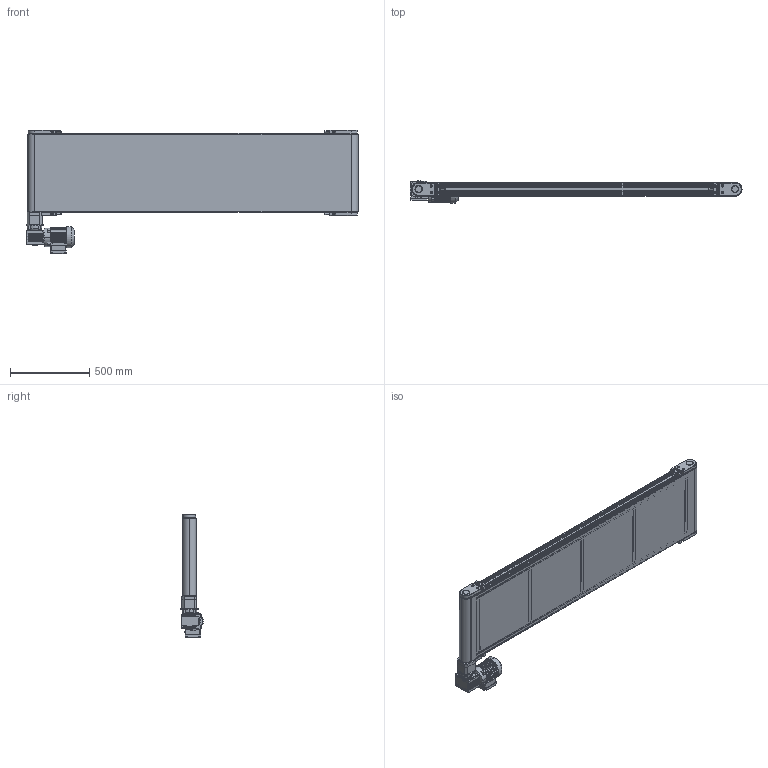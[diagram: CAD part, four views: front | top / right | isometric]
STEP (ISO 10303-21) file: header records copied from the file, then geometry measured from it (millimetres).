
FILE_DESCRIPTION(('STEP AP214'),'1');
FILE_NAME('fb-80-du-500-2000-1.stp','2019-12-10T15:17:32',('TraceParts'),('TraceParts S.A.'),'Spatial InterOp 3D',' ',' ');
FILE_SCHEMA(('AUTOMOTIVE_DESIGN { 1 0 10303 214 1 1 1 1 }'));
Length unit declared in the file: millimetre
Products named in the file (1): fb-80-du-500-2000-1_1
Bounding box: 2098.5 x 144 x 781.5 mm (x, y, z)
Volume: 20052388.1 mm3; surface area: 9523939.6 mm2
Topology: 48 solids, 57 shells, 4116 faces, 11479 edges, 7572 vertices
Faces by surface type: plane 2202, cylinder 1803, cone 105, sphere 4, torus 2
Entity records: 150213 total; most frequent: DIRECTION 23571, CARTESIAN_POINT 23562, ORIENTED_EDGE 22948, EDGE_CURVE 11474, AXIS2_PLACEMENT_3D 8068, VERTEX_POINT 7572, LINE 7435, VECTOR 7435
